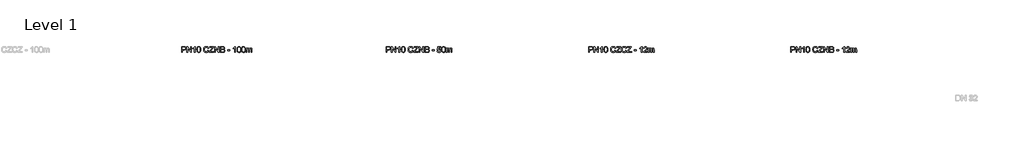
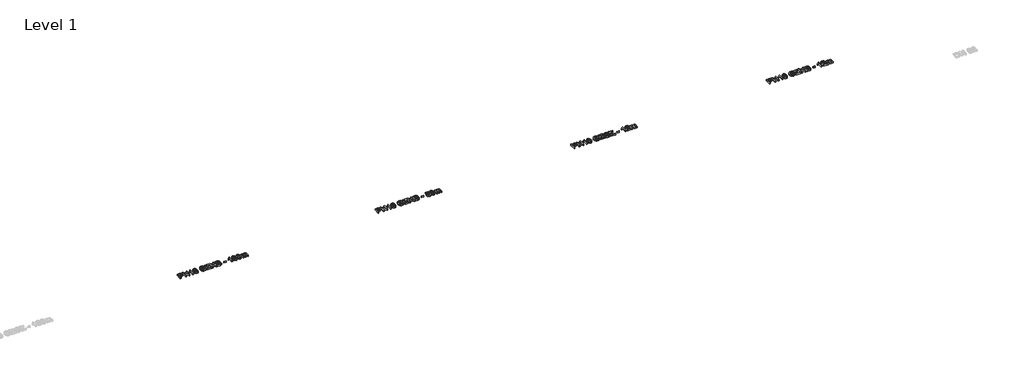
# One storey, part 11 of 17: 4 proxies.
"""IFC4 building model written with IfcOpenShell, lengths in millimetres."""

from ifc_helpers import new_model, si_unit, origin, origin_with_axes, place, context, project, spatial, polyline, outline, extrude, element, save

model = new_model("IFC4")

# Units and contexts
model_context = context("Model", 3, world=origin())
ifc_project = project(units=[si_unit("LENGTHUNIT", "METRE", prefix="MILLI")], contexts=[model_context])

# Site, building, storey
site = spatial("IfcSite", under=ifc_project)
building = spatial("IfcBuilding", under=site)
storey = spatial("IfcBuildingStorey", under=building, Name="Level 1", Elevation=0.0)

# Proxies
placement = place(None, origin())
element("IfcBuildingElementProxy", 1, Name="200mm Arial", ObjectType="200mm Arial", at=placement, inside=storey, context=model_context, shape_type="SweptSolid", body=[
    extrude(outline(polyline([(12829.3512364, -28838.0508707), (12829.3512364, -28637.1382504), (12903.8105522, -28637.1382504), (12933.829723, -28639.0512367), (12958.232562, -28648.4444903), (12967.1046495, -28656.7708862), (12974.0514878, -28667.8686597), (12978.5396481, -28680.9591274), (12980.0357016, -28695.2636056), (12975.995131, -28718.9429434), (12963.8734193, -28738.673681), (12954.1659331, -28746.4421225), (12941.205757, -28751.9910093), (12905.5273348, -28756.4301187), (12854.4653139, -28756.4301187), (12854.4653139, -28838.0508707), (12829.3512364, -28838.0508707)]), holes=[polyline([(12854.4653139, -28731.3160411), (12906.9988628, -28731.3160411), (12929.2679863, -28729.0106473), (12943.9832661, -28722.0944658), (12952.1870346, -28710.9966923), (12954.9216241, -28696.1465224), (12953.3090746, -28684.8648079), (12948.4714264, -28675.3489269), (12941.0095533, -28668.1874908), (12931.5243292, -28663.9691105), (12906.4102516, -28662.2523279), (12854.4653139, -28662.2523279), (12854.4653139, -28731.3160411)])]), origin_with_axes(), (0.0, 0.0, 1.0), 50.0),
    extrude(outline(polyline([(13014.5675582, -28838.0508707), (13014.5675582, -28637.1382504), (13041.4474693, -28637.1382504), (13146.4164653, -28796.3085269), (13146.4164653, -28637.1382504), (13171.5305428, -28637.1382504), (13171.5305428, -28838.0508707), (13144.6506317, -28838.0508707), (13039.6816357, -28678.8315431), (13039.6816357, -28838.0508707), (13014.5675582, -28838.0508707)])), origin_with_axes(), (0.0, 0.0, 1.0), 50.0),
    extrude(outline(polyline([(13300.2401902, -28838.0508707), (13275.1261127, -28838.0508707), (13275.1261127, -28681.4802935), (13251.3364103, -28698.4273908), (13224.8979576, -28711.1070569), (13224.8979576, -28687.3664054), (13261.7106826, -28663.8710087), (13275.181295, -28650.2961631), (13284.0533824, -28637.1382504), (13300.2401902, -28637.1382504), (13300.2401902, -28838.0508707)])), origin_with_axes(), (0.0, 0.0, 1.0), 50.0),
    extrude(outline(polyline([(13359.8861243, -28739.2132413), (13361.7316657, -28707.0542235), (13367.2682897, -28681.4067171), (13376.4408141, -28661.8783145), (13389.1940566, -28648.0766083), (13405.6199877, -28639.8728399), (13425.8105779, -28637.1382504), (13441.2861471, -28638.7569311), (13455.1430356, -28643.6129735), (13466.7313185, -28651.516305), (13475.4010708, -28662.2768534), (13487.1732947, -28692.0017186), (13491.7350314, -28739.2132413), (13489.9078842, -28771.188318), (13484.4264424, -28796.7745108), (13475.3091003, -28816.3213075), (13462.5742519, -28830.178196), (13446.1115327, -28838.4371468), (13425.8105779, -28841.1901304), (13399.7154817, -28836.4076644), (13379.8989049, -28822.0602666), (13371.1433134, -28806.9311195), (13364.8893195, -28788.080233), (13359.8861243, -28739.2132413)]), holes=[polyline([(13385.0002019, -28739.1641904), (13387.9432578, -28778.6685853), (13396.7724257, -28801.5324513), (13409.9180757, -28812.4401524), (13425.8105779, -28816.0760528), (13441.7030801, -28812.4278897), (13454.84873, -28801.4834003), (13463.6778979, -28778.6072716), (13466.6209539, -28739.1641904), (13463.7759998, -28700.5488436), (13455.2411375, -28677.507168), (13442.120013, -28666.0660379), (13425.5162723, -28662.2523279), (13409.7954484, -28665.6123168), (13397.1648332, -28675.6922835), (13388.0413597, -28700.1686989), (13385.0002019, -28739.1641904)])]), origin_with_axes(), (0.0, 0.0, 1.0), 50.0),
    extrude(outline(polyline([(13742.8758068, -28766.6327127), (13767.9898843, -28773.1074358), (13756.4016015, -28802.3724485), (13738.2159682, -28823.7525238), (13714.328164, -28836.8307287), (13685.6333683, -28841.1901304), (13656.5032457, -28837.8914551), (13633.3695996, -28827.9954295), (13615.6376874, -28811.8454099), (13602.7127666, -28789.7847529), (13594.8216978, -28763.8490722), (13592.1913416, -28736.0739816), (13595.1650544, -28706.778312), (13604.0861927, -28681.4802935), (13618.4887729, -28660.983135), (13637.9068108, -28646.0900456), (13660.9362237, -28637.0217544), (13686.1729286, -28633.9989907), (13713.7088959, -28637.9108025), (13736.4746601, -28649.6462382), (13753.7589825, -28668.4817963), (13764.8506246, -28693.6939758), (13739.7365471, -28699.6781895), (13731.0300065, -28681.3637975), (13719.1351554, -28668.8006274), (13703.9048408, -28661.534958), (13685.1919099, -28659.1130682), (13663.6217623, -28661.7986068), (13645.9021129, -28669.8552225), (13632.4560259, -28682.4367867), (13623.7065658, -28698.6971709), (13618.9057058, -28717.0790079), (13617.3054191, -28736.0249307), (13619.2000114, -28759.2260218), (13624.8837882, -28779.2878533), (13634.5713474, -28795.4440043), (13648.4772868, -28806.9280539), (13665.1484726, -28813.7890531), (13683.1317708, -28816.0760528), (13704.0949131, -28812.9613186), (13721.5631765, -28803.6171159), (13734.7517461, -28788.1415466), (13742.8758068, -28766.6327127)])), origin_with_axes(), (0.0, 0.0, 1.0), 50.0),
    extrude(outline(polyline([(13786.8254425, -28838.0508707), (13786.8254425, -28812.0048254), (13889.5871465, -28686.189183), (13909.1094177, -28662.2523279), (13799.3824813, -28662.2523279), (13799.3824813, -28637.1382504), (13940.6491674, -28637.1382504), (13940.6491674, -28662.2523279), (13828.1753787, -28799.938296), (13817.5803773, -28812.9367931), (13943.7884271, -28812.9367931), (13943.7884271, -28838.0508707), (13786.8254425, -28838.0508707)])), origin_with_axes(), (0.0, 0.0, 1.0), 50.0),
    extrude(outline(polyline([(13972.0417643, -28838.0508707), (13972.0417643, -28637.1382504), (13998.9216754, -28637.1382504), (14103.8906714, -28796.3085269), (14103.8906714, -28637.1382504), (14129.0047489, -28637.1382504), (14129.0047489, -28838.0508707), (14102.1248378, -28838.0508707), (13997.1558419, -28678.8315431), (13997.1558419, -28838.0508707), (13972.0417643, -28838.0508707)])), origin_with_axes(), (0.0, 0.0, 1.0), 50.0),
    extrude(outline(polyline([(14172.9543846, -28838.0508707), (14172.9543846, -28637.1382504), (14249.6209924, -28637.1382504), (14270.7067621, -28638.6159097), (14287.1694814, -28643.0488877), (14299.7878338, -28650.5475491), (14309.340503, -28661.2222583), (14315.3553736, -28673.7792971), (14317.3603305, -28686.924947), (14315.6742047, -28699.0221333), (14310.6158272, -28710.3958183), (14302.14841, -28720.3470263), (14290.2351647, -28728.1767814), (14304.4660665, -28735.6079977), (14314.9813602, -28746.9142377), (14321.4744774, -28761.3474747), (14323.6388498, -28778.1596818), (14317.7282125, -28805.1622203), (14303.086509, -28824.3901859), (14281.2343185, -28834.5927799), (14249.0323812, -28838.0508707), (14172.9543846, -28838.0508707)]), holes=[polyline([(14198.0684622, -28812.9367931), (14249.5719415, -28812.9367931), (14268.2112959, -28811.9557745), (14283.9811708, -28806.4865955), (14294.4290194, -28795.3275083), (14298.5247723, -28778.4049365), (14293.7177809, -28758.8826653), (14287.4208674, -28751.8254624), (14278.1441098, -28747.2330688), (14247.1193948, -28743.8730799), (14198.0684622, -28743.8730799), (14198.0684622, -28812.9367931)]), polyline([(14198.0684622, -28718.7590024), (14243.9310842, -28718.7590024), (14270.7128935, -28716.6007613), (14286.8261249, -28707.3056096), (14292.2462529, -28690.9471235), (14287.1940069, -28674.564112), (14272.7239817, -28664.8765528), (14240.448468, -28662.2523279), (14198.0684622, -28662.2523279), (14198.0684622, -28718.7590024)])]), origin_with_axes(), (0.0, 0.0, 1.0), 50.0),
    extrude(outline(polyline([(14420.9559003, -28778.4049365), (14420.9559003, -28753.290859), (14499.4373926, -28753.290859), (14499.4373926, -28778.4049365), (14420.9559003, -28778.4049365)])), origin_with_axes(), (0.0, 0.0, 1.0), 50.0),
    extrude(outline(polyline([(14599.8937028, -28784.6834559), (14625.0077803, -28781.5441962), (14629.618568, -28796.6212266), (14637.6629209, -28807.4185632), (14649.104051, -28813.9116804), (14663.9051699, -28816.0760528), (14681.9068622, -28813.0655518), (14695.3958687, -28804.0340488), (14703.8203664, -28790.0238762), (14706.6285323, -28772.0773662), (14703.998176, -28755.1793199), (14696.1071072, -28742.2543991), (14682.8940122, -28734.0506306), (14664.2975774, -28731.3160411), (14642.2491831, -28735.6815741), (14628.14704, -28747.0123396), (14603.0329624, -28743.8730799), (14625.0077803, -28640.2775101), (14722.3248308, -28640.2775101), (14722.3248308, -28665.3915876), (14645.3148664, -28665.3915876), (14634.5727122, -28720.7210397), (14652.5130908, -28709.8317326), (14671.3118608, -28706.2019636), (14694.7766007, -28710.7023867), (14714.2559523, -28724.2036559), (14727.3709455, -28744.7805221), (14731.7426098, -28770.5077363), (14727.8062725, -28795.6218139), (14715.9972604, -28817.1061224), (14705.5616745, -28827.6428759), (14693.3847805, -28835.1691284), (14679.4665783, -28839.6848799), (14663.8070681, -28841.1901304), (14639.1405803, -28837.321238), (14619.4895504, -28825.7145611), (14606.018938, -28807.7190002), (14599.8937028, -28784.6834559)])), origin_with_axes(), (0.0, 0.0, 1.0), 50.0),
    extrude(outline(polyline([(14753.7174277, -28739.2132413), (14755.562969, -28707.0542235), (14761.099593, -28681.4067171), (14770.2721175, -28661.8783145), (14783.02536, -28648.0766083), (14799.451291, -28639.8728399), (14819.6418812, -28637.1382504), (14835.1174505, -28638.7569311), (14848.974339, -28643.6129735), (14860.5626218, -28651.516305), (14869.2323742, -28662.2768534), (14881.004598, -28692.0017186), (14885.5663347, -28739.2132413), (14883.7391875, -28771.188318), (14878.2577458, -28796.7745108), (14869.1404037, -28816.3213075), (14856.4055553, -28830.178196), (14839.942836, -28838.4371468), (14819.6418812, -28841.1901304), (14793.546785, -28836.4076644), (14773.7302082, -28822.0602666), (14764.9746167, -28806.9311195), (14758.7206228, -28788.080233), (14753.7174277, -28739.2132413)]), holes=[polyline([(14778.8315052, -28739.1641904), (14781.7745612, -28778.6685853), (14790.6037291, -28801.5324513), (14803.749379, -28812.4401524), (14819.6418812, -28816.0760528), (14835.5343834, -28812.4278897), (14848.6800334, -28801.4834003), (14857.5092012, -28778.6072716), (14860.4522572, -28739.1641904), (14857.6073031, -28700.5488436), (14849.0724408, -28677.507168), (14835.9513163, -28666.0660379), (14819.3475756, -28662.2523279), (14803.6267517, -28665.6123168), (14790.9961365, -28675.6922835), (14781.872663, -28700.1686989), (14778.8315052, -28739.1641904)])]), origin_with_axes(), (0.0, 0.0, 1.0), 50.0),
    extrude(outline(polyline([(14913.819672, -28838.0508707), (14913.819672, -28690.5056651), (14938.9337495, -28690.5056651), (14938.9337495, -28714.7858768), (14946.4875931, -28703.632921), (14956.1996778, -28694.8957236), (14967.7389097, -28689.248735), (14980.7741951, -28687.3664054), (14994.7414482, -28689.2855232), (15005.9373236, -28695.0428764), (15014.3005076, -28704.2583204), (15019.7696866, -28716.5517104), (15028.9238169, -28703.7831395), (15039.3655342, -28694.6627317), (15051.0948385, -28689.190487), (15064.1117297, -28687.3664054), (15082.9902075, -28690.4014319), (15096.9513292, -28699.5065113), (15105.578162, -28714.9268982), (15108.4537729, -28736.9078475), (15108.4537729, -28838.0508707), (15083.3396954, -28838.0508707), (15083.3396954, -28747.6990526), (15081.009776, -28726.7297789), (15072.5730156, -28716.4045576), (15058.2256178, -28712.480483), (15044.6201154, -28714.9943433), (15033.5284732, -28722.5359242), (15026.1524392, -28735.6202605), (15023.6937612, -28754.762387), (15023.6937612, -28838.0508707), (14998.5796837, -28838.0508707), (14998.5796837, -28744.9031495), (14997.1265498, -28730.7029045), (14992.7671481, -28720.5738869), (14985.0968085, -28714.5038339), (14973.7108608, -28712.480483), (14955.1205573, -28717.8760856), (14947.7629174, -28724.5224869), (14942.7597223, -28733.6704859), (14938.9337495, -28763.6406058), (14938.9337495, -28838.0508707), (14913.819672, -28838.0508707)])), origin_with_axes(), (0.0, 0.0, 1.0), 50.0),
])
element("IfcBuildingElementProxy", 2, Name="200mm Arial", ObjectType="200mm Arial", at=placement, inside=storey, context=model_context, shape_type="SweptSolid", body=[
    extrude(outline(polyline([(26829.3512364, -28838.0508707), (26829.3512364, -28637.1382504), (26903.8105522, -28637.1382504), (26933.829723, -28639.0512367), (26958.232562, -28648.4444903), (26967.1046495, -28656.7708862), (26974.0514878, -28667.8686597), (26978.5396481, -28680.9591274), (26980.0357016, -28695.2636056), (26975.995131, -28718.9429434), (26963.8734193, -28738.673681), (26954.1659331, -28746.4421225), (26941.205757, -28751.9910093), (26905.5273348, -28756.4301187), (26854.4653139, -28756.4301187), (26854.4653139, -28838.0508707), (26829.3512364, -28838.0508707)]), holes=[polyline([(26854.4653139, -28731.3160411), (26906.9988628, -28731.3160411), (26929.2679863, -28729.0106473), (26943.9832661, -28722.0944658), (26952.1870346, -28710.9966923), (26954.9216241, -28696.1465224), (26953.3090746, -28684.8648079), (26948.4714264, -28675.3489269), (26941.0095533, -28668.1874908), (26931.5243292, -28663.9691105), (26906.4102516, -28662.2523279), (26854.4653139, -28662.2523279), (26854.4653139, -28731.3160411)])]), origin_with_axes(), (0.0, 0.0, 1.0), 50.0),
    extrude(outline(polyline([(27014.5675582, -28838.0508707), (27014.5675582, -28637.1382504), (27041.4474693, -28637.1382504), (27146.4164653, -28796.3085269), (27146.4164653, -28637.1382504), (27171.5305428, -28637.1382504), (27171.5305428, -28838.0508707), (27144.6506317, -28838.0508707), (27039.6816357, -28678.8315431), (27039.6816357, -28838.0508707), (27014.5675582, -28838.0508707)])), origin_with_axes(), (0.0, 0.0, 1.0), 50.0),
    extrude(outline(polyline([(27300.2401902, -28838.0508707), (27275.1261127, -28838.0508707), (27275.1261127, -28681.4802935), (27251.3364103, -28698.4273908), (27224.8979576, -28711.1070569), (27224.8979576, -28687.3664054), (27261.7106826, -28663.8710087), (27275.181295, -28650.2961631), (27284.0533824, -28637.1382504), (27300.2401902, -28637.1382504), (27300.2401902, -28838.0508707)])), origin_with_axes(), (0.0, 0.0, 1.0), 50.0),
    extrude(outline(polyline([(27359.8861243, -28739.2132413), (27361.7316657, -28707.0542235), (27367.2682897, -28681.4067171), (27376.4408141, -28661.8783145), (27389.1940566, -28648.0766083), (27405.6199877, -28639.8728399), (27425.8105779, -28637.1382504), (27441.2861471, -28638.7569311), (27455.1430356, -28643.6129735), (27466.7313185, -28651.516305), (27475.4010708, -28662.2768534), (27487.1732947, -28692.0017186), (27491.7350314, -28739.2132413), (27489.9078842, -28771.188318), (27484.4264424, -28796.7745108), (27475.3091003, -28816.3213075), (27462.5742519, -28830.178196), (27446.1115327, -28838.4371468), (27425.8105779, -28841.1901304), (27399.7154817, -28836.4076644), (27379.8989049, -28822.0602666), (27371.1433134, -28806.9311195), (27364.8893195, -28788.080233), (27359.8861243, -28739.2132413)]), holes=[polyline([(27385.0002019, -28739.1641904), (27387.9432578, -28778.6685853), (27396.7724257, -28801.5324513), (27409.9180757, -28812.4401524), (27425.8105779, -28816.0760528), (27441.7030801, -28812.4278897), (27454.84873, -28801.4834003), (27463.6778979, -28778.6072716), (27466.6209539, -28739.1641904), (27463.7759998, -28700.5488436), (27455.2411375, -28677.507168), (27442.120013, -28666.0660379), (27425.5162723, -28662.2523279), (27409.7954484, -28665.6123168), (27397.1648332, -28675.6922835), (27388.0413597, -28700.1686989), (27385.0002019, -28739.1641904)])]), origin_with_axes(), (0.0, 0.0, 1.0), 50.0),
    extrude(outline(polyline([(27742.8758068, -28766.6327127), (27767.9898843, -28773.1074358), (27756.4016015, -28802.3724485), (27738.2159682, -28823.7525238), (27714.328164, -28836.8307287), (27685.6333683, -28841.1901304), (27656.5032457, -28837.8914551), (27633.3695996, -28827.9954295), (27615.6376874, -28811.8454099), (27602.7127666, -28789.7847529), (27594.8216978, -28763.8490722), (27592.1913416, -28736.0739816), (27595.1650544, -28706.778312), (27604.0861927, -28681.4802935), (27618.4887729, -28660.983135), (27637.9068108, -28646.0900456), (27660.9362237, -28637.0217544), (27686.1729286, -28633.9989907), (27713.7088959, -28637.9108025), (27736.4746601, -28649.6462382), (27753.7589825, -28668.4817963), (27764.8506246, -28693.6939758), (27739.7365471, -28699.6781895), (27731.0300065, -28681.3637975), (27719.1351554, -28668.8006274), (27703.9048408, -28661.534958), (27685.1919099, -28659.1130682), (27663.6217623, -28661.7986068), (27645.9021129, -28669.8552225), (27632.4560259, -28682.4367867), (27623.7065658, -28698.6971709), (27618.9057058, -28717.0790079), (27617.3054191, -28736.0249307), (27619.2000114, -28759.2260218), (27624.8837882, -28779.2878533), (27634.5713474, -28795.4440043), (27648.4772868, -28806.9280539), (27665.1484726, -28813.7890531), (27683.1317708, -28816.0760528), (27704.0949131, -28812.9613186), (27721.5631765, -28803.6171159), (27734.7517461, -28788.1415466), (27742.8758068, -28766.6327127)])), origin_with_axes(), (0.0, 0.0, 1.0), 50.0),
    extrude(outline(polyline([(27786.8254425, -28838.0508707), (27786.8254425, -28812.0048254), (27889.5871465, -28686.189183), (27909.1094177, -28662.2523279), (27799.3824813, -28662.2523279), (27799.3824813, -28637.1382504), (27940.6491674, -28637.1382504), (27940.6491674, -28662.2523279), (27828.1753787, -28799.938296), (27817.5803773, -28812.9367931), (27943.7884271, -28812.9367931), (27943.7884271, -28838.0508707), (27786.8254425, -28838.0508707)])), origin_with_axes(), (0.0, 0.0, 1.0), 50.0),
    extrude(outline(polyline([(27972.0417643, -28838.0508707), (27972.0417643, -28637.1382504), (27998.9216754, -28637.1382504), (28103.8906714, -28796.3085269), (28103.8906714, -28637.1382504), (28129.0047489, -28637.1382504), (28129.0047489, -28838.0508707), (28102.1248378, -28838.0508707), (27997.1558419, -28678.8315431), (27997.1558419, -28838.0508707), (27972.0417643, -28838.0508707)])), origin_with_axes(), (0.0, 0.0, 1.0), 50.0),
    extrude(outline(polyline([(28172.9543846, -28838.0508707), (28172.9543846, -28637.1382504), (28249.6209924, -28637.1382504), (28270.7067621, -28638.6159097), (28287.1694814, -28643.0488877), (28299.7878338, -28650.5475491), (28309.340503, -28661.2222583), (28315.3553736, -28673.7792971), (28317.3603305, -28686.924947), (28315.6742047, -28699.0221333), (28310.6158272, -28710.3958183), (28302.14841, -28720.3470263), (28290.2351647, -28728.1767814), (28304.4660665, -28735.6079977), (28314.9813602, -28746.9142377), (28321.4744774, -28761.3474747), (28323.6388498, -28778.1596818), (28317.7282125, -28805.1622203), (28303.086509, -28824.3901859), (28281.2343185, -28834.5927799), (28249.0323812, -28838.0508707), (28172.9543846, -28838.0508707)]), holes=[polyline([(28198.0684622, -28812.9367931), (28249.5719415, -28812.9367931), (28268.2112959, -28811.9557745), (28283.9811708, -28806.4865955), (28294.4290194, -28795.3275083), (28298.5247723, -28778.4049365), (28293.7177809, -28758.8826653), (28287.4208674, -28751.8254624), (28278.1441098, -28747.2330688), (28247.1193948, -28743.8730799), (28198.0684622, -28743.8730799), (28198.0684622, -28812.9367931)]), polyline([(28198.0684622, -28718.7590024), (28243.9310842, -28718.7590024), (28270.7128935, -28716.6007613), (28286.8261249, -28707.3056096), (28292.2462529, -28690.9471235), (28287.1940069, -28674.564112), (28272.7239817, -28664.8765528), (28240.448468, -28662.2523279), (28198.0684622, -28662.2523279), (28198.0684622, -28718.7590024)])]), origin_with_axes(), (0.0, 0.0, 1.0), 50.0),
    extrude(outline(polyline([(28420.9559003, -28778.4049365), (28420.9559003, -28753.290859), (28499.4373926, -28753.290859), (28499.4373926, -28778.4049365), (28420.9559003, -28778.4049365)])), origin_with_axes(), (0.0, 0.0, 1.0), 50.0),
    extrude(outline(polyline([(28694.0714935, -28838.0508707), (28668.957416, -28838.0508707), (28668.957416, -28681.4802935), (28645.1677136, -28698.4273908), (28618.7292609, -28711.1070569), (28618.7292609, -28687.3664054), (28655.5419859, -28663.8710087), (28669.0125983, -28650.2961631), (28677.8846857, -28637.1382504), (28694.0714935, -28637.1382504), (28694.0714935, -28838.0508707)])), origin_with_axes(), (0.0, 0.0, 1.0), 50.0),
    extrude(outline(polyline([(28882.4270751, -28812.9367931), (28882.4270751, -28838.0508707), (28750.578168, -28838.0508707), (28753.2759693, -28820.7358914), (28768.5308093, -28794.0767095), (28799.9724572, -28764.9649809), (28843.3334817, -28723.1245354), (28851.4636738, -28708.7035612), (28854.1737378, -28694.6749944), (28851.616958, -28682.0995615), (28843.9466184, -28671.6455815), (28832.1560004, -28664.6006413), (28817.2383855, -28662.2523279), (28801.5727439, -28664.545459), (28789.4019812, -28671.4248523), (28781.5477006, -28682.3509476), (28778.8315052, -28696.7841845), (28753.7174277, -28693.6449248), (28759.8058747, -28669.3524504), (28772.9699188, -28651.6082755), (28792.5228468, -28640.7557566), (28817.7779458, -28637.1382504), (28843.2169857, -28641.1604268), (28862.7331256, -28653.2269563), (28875.1491429, -28671.253174), (28879.2878154, -28693.1544155), (28874.8241805, -28716.9686433), (28859.9862733, -28741.5922115), (28824.0074142, -28776.0014408), (28795.1164149, -28800.1590252), (28783.7856494, -28812.9367931), (28882.4270751, -28812.9367931)])), origin_with_axes(), (0.0, 0.0, 1.0), 50.0),
    extrude(outline(polyline([(28913.819672, -28838.0508707), (28913.819672, -28690.5056651), (28938.9337495, -28690.5056651), (28938.9337495, -28714.7858768), (28946.4875931, -28703.632921), (28956.1996778, -28694.8957236), (28967.7389097, -28689.248735), (28980.7741951, -28687.3664054), (28994.7414482, -28689.2855232), (29005.9373236, -28695.0428764), (29014.3005076, -28704.2583204), (29019.7696866, -28716.5517104), (29028.9238169, -28703.7831395), (29039.3655342, -28694.6627317), (29051.0948385, -28689.190487), (29064.1117297, -28687.3664054), (29082.9902075, -28690.4014319), (29096.9513292, -28699.5065113), (29105.578162, -28714.9268982), (29108.4537729, -28736.9078475), (29108.4537729, -28838.0508707), (29083.3396954, -28838.0508707), (29083.3396954, -28747.6990526), (29081.009776, -28726.7297789), (29072.5730156, -28716.4045576), (29058.2256178, -28712.480483), (29044.6201154, -28714.9943433), (29033.5284732, -28722.5359242), (29026.1524392, -28735.6202605), (29023.6937612, -28754.762387), (29023.6937612, -28838.0508707), (28998.5796837, -28838.0508707), (28998.5796837, -28744.9031495), (28997.1265498, -28730.7029045), (28992.7671481, -28720.5738869), (28985.0968085, -28714.5038339), (28973.7108608, -28712.480483), (28955.1205573, -28717.8760856), (28947.7629174, -28724.5224869), (28942.7597223, -28733.6704859), (28938.9337495, -28763.6406058), (28938.9337495, -28838.0508707), (28913.819672, -28838.0508707)])), origin_with_axes(), (0.0, 0.0, 1.0), 50.0),
])
element("IfcBuildingElementProxy", 3, Name="200mm Arial", ObjectType="200mm Arial", at=placement, inside=storey, context=model_context, shape_type="SweptSolid", body=[
    extrude(outline(polyline([(19837.1993856, -28838.0508707), (19837.1993856, -28637.1382504), (19911.6587014, -28637.1382504), (19941.6778722, -28639.0512367), (19966.0807112, -28648.4444903), (19974.9527987, -28656.7708862), (19981.899637, -28667.8686597), (19986.3877974, -28680.9591274), (19987.8838508, -28695.2636056), (19983.8432802, -28718.9429434), (19971.7215685, -28738.673681), (19962.0140824, -28746.4421225), (19949.0539062, -28751.9910093), (19913.3754841, -28756.4301187), (19862.3134631, -28756.4301187), (19862.3134631, -28838.0508707), (19837.1993856, -28838.0508707)]), holes=[polyline([(19862.3134631, -28731.3160411), (19914.847012, -28731.3160411), (19937.1161355, -28729.0106473), (19951.8314153, -28722.0944658), (19960.0351838, -28710.9966923), (19962.7697733, -28696.1465224), (19961.1572239, -28684.8648079), (19956.3195756, -28675.3489269), (19948.8577025, -28668.1874908), (19939.3724784, -28663.9691105), (19914.2584009, -28662.2523279), (19862.3134631, -28662.2523279), (19862.3134631, -28731.3160411)])]), origin_with_axes(), (0.0, 0.0, 1.0), 50.0),
    extrude(outline(polyline([(20022.4157074, -28838.0508707), (20022.4157074, -28637.1382504), (20049.2956186, -28637.1382504), (20154.2646145, -28796.3085269), (20154.2646145, -28637.1382504), (20179.378692, -28637.1382504), (20179.378692, -28838.0508707), (20152.4987809, -28838.0508707), (20047.529785, -28678.8315431), (20047.529785, -28838.0508707), (20022.4157074, -28838.0508707)])), origin_with_axes(), (0.0, 0.0, 1.0), 50.0),
    extrude(outline(polyline([(20308.0883394, -28838.0508707), (20282.9742619, -28838.0508707), (20282.9742619, -28681.4802935), (20259.1845595, -28698.4273908), (20232.7461068, -28711.1070569), (20232.7461068, -28687.3664054), (20269.5588318, -28663.8710087), (20283.0294442, -28650.2961631), (20291.9015316, -28637.1382504), (20308.0883394, -28637.1382504), (20308.0883394, -28838.0508707)])), origin_with_axes(), (0.0, 0.0, 1.0), 50.0),
    extrude(outline(polyline([(20367.7342736, -28739.2132413), (20369.5798149, -28707.0542235), (20375.1164389, -28681.4067171), (20384.2889634, -28661.8783145), (20397.0422059, -28648.0766083), (20413.4681369, -28639.8728399), (20433.6587271, -28637.1382504), (20449.1342964, -28638.7569311), (20462.9911849, -28643.6129735), (20474.5794677, -28651.516305), (20483.2492201, -28662.2768534), (20495.0214439, -28692.0017186), (20499.5831806, -28739.2132413), (20497.7560334, -28771.188318), (20492.2745917, -28796.7745108), (20483.1572496, -28816.3213075), (20470.4224012, -28830.178196), (20453.9596819, -28838.4371468), (20433.6587271, -28841.1901304), (20407.5636309, -28836.4076644), (20387.7470541, -28822.0602666), (20378.9914626, -28806.9311195), (20372.7374687, -28788.080233), (20367.7342736, -28739.2132413)]), holes=[polyline([(20392.8483511, -28739.1641904), (20395.7914071, -28778.6685853), (20404.620575, -28801.5324513), (20417.7662249, -28812.4401524), (20433.6587271, -28816.0760528), (20449.5512293, -28812.4278897), (20462.6968793, -28801.4834003), (20471.5260472, -28778.6072716), (20474.4691031, -28739.1641904), (20471.624149, -28700.5488436), (20463.0892867, -28677.507168), (20449.9681622, -28666.0660379), (20433.3644215, -28662.2523279), (20417.6435976, -28665.6123168), (20405.0129824, -28675.6922835), (20395.8895089, -28700.1686989), (20392.8483511, -28739.1641904)])]), origin_with_axes(), (0.0, 0.0, 1.0), 50.0),
    extrude(outline(polyline([(20750.723956, -28766.6327127), (20775.8380336, -28773.1074358), (20764.2497507, -28802.3724485), (20746.0641174, -28823.7525238), (20722.1763132, -28836.8307287), (20693.4815176, -28841.1901304), (20664.3513949, -28837.8914551), (20641.2177488, -28827.9954295), (20623.4858366, -28811.8454099), (20610.5609159, -28789.7847529), (20602.6698471, -28763.8490722), (20600.0394908, -28736.0739816), (20603.0132036, -28706.778312), (20611.934342, -28681.4802935), (20626.3369221, -28660.983135), (20645.7549601, -28646.0900456), (20668.784373, -28637.0217544), (20694.0210778, -28633.9989907), (20721.5570452, -28637.9108025), (20744.3228093, -28649.6462382), (20761.6071317, -28668.4817963), (20772.6987739, -28693.6939758), (20747.5846963, -28699.6781895), (20738.8781558, -28681.3637975), (20726.9833046, -28668.8006274), (20711.75299, -28661.534958), (20693.0400592, -28659.1130682), (20671.4699115, -28661.7986068), (20653.7502621, -28669.8552225), (20640.3041752, -28682.4367867), (20631.5547151, -28698.6971709), (20626.753855, -28717.0790079), (20625.1535683, -28736.0249307), (20627.0481606, -28759.2260218), (20632.7319374, -28779.2878533), (20642.4194966, -28795.4440043), (20656.3254361, -28806.9280539), (20672.9966218, -28813.7890531), (20690.97992, -28816.0760528), (20711.9430624, -28812.9613186), (20729.4113258, -28803.6171159), (20742.5998953, -28788.1415466), (20750.723956, -28766.6327127)])), origin_with_axes(), (0.0, 0.0, 1.0), 50.0),
    extrude(outline(polyline([(20794.6735917, -28838.0508707), (20794.6735917, -28812.0048254), (20897.4352957, -28686.189183), (20916.9575669, -28662.2523279), (20807.2306305, -28662.2523279), (20807.2306305, -28637.1382504), (20948.4973166, -28637.1382504), (20948.4973166, -28662.2523279), (20836.023528, -28799.938296), (20825.4285265, -28812.9367931), (20951.6365763, -28812.9367931), (20951.6365763, -28838.0508707), (20794.6735917, -28838.0508707)])), origin_with_axes(), (0.0, 0.0, 1.0), 50.0),
    extrude(outline(polyline([(21121.1565997, -28766.6327127), (21146.2706772, -28773.1074358), (21134.6823944, -28802.3724485), (21116.4967611, -28823.7525238), (21092.6089569, -28836.8307287), (21063.9141613, -28841.1901304), (21034.7840386, -28837.8914551), (21011.6503925, -28827.9954295), (20993.9184803, -28811.8454099), (20980.9935595, -28789.7847529), (20973.1024907, -28763.8490722), (20970.4721345, -28736.0739816), (20973.4458473, -28706.778312), (20982.3669857, -28681.4802935), (20996.7695658, -28660.983135), (21016.1876037, -28646.0900456), (21039.2170166, -28637.0217544), (21064.4537215, -28633.9989907), (21091.9896888, -28637.9108025), (21114.755453, -28649.6462382), (21132.0397754, -28668.4817963), (21143.1314175, -28693.6939758), (21118.01734, -28699.6781895), (21109.3107995, -28681.3637975), (21097.4159483, -28668.8006274), (21082.1856337, -28661.534958), (21063.4727029, -28659.1130682), (21041.9025552, -28661.7986068), (21024.1829058, -28669.8552225), (21010.7368188, -28682.4367867), (21001.9873587, -28698.6971709), (20997.1864987, -28717.0790079), (20995.586212, -28736.0249307), (20997.4808043, -28759.2260218), (21003.1645811, -28779.2878533), (21012.8521403, -28795.4440043), (21026.7580797, -28806.9280539), (21043.4292655, -28813.7890531), (21061.4125637, -28816.0760528), (21082.375706, -28812.9613186), (21099.8439694, -28803.6171159), (21113.032539, -28788.1415466), (21121.1565997, -28766.6327127)])), origin_with_axes(), (0.0, 0.0, 1.0), 50.0),
    extrude(outline(polyline([(21165.1062354, -28838.0508707), (21165.1062354, -28812.0048254), (21267.8679394, -28686.189183), (21287.3902106, -28662.2523279), (21177.6632742, -28662.2523279), (21177.6632742, -28637.1382504), (21318.9299603, -28637.1382504), (21318.9299603, -28662.2523279), (21206.4561716, -28799.938296), (21195.8611702, -28812.9367931), (21322.06922, -28812.9367931), (21322.06922, -28838.0508707), (21165.1062354, -28838.0508707)])), origin_with_axes(), (0.0, 0.0, 1.0), 50.0),
    extrude(outline(polyline([(21413.1077511, -28778.4049365), (21413.1077511, -28753.290859), (21491.5892434, -28753.290859), (21491.5892434, -28778.4049365), (21413.1077511, -28778.4049365)])), origin_with_axes(), (0.0, 0.0, 1.0), 50.0),
    extrude(outline(polyline([(21686.2233443, -28838.0508707), (21661.1092668, -28838.0508707), (21661.1092668, -28681.4802935), (21637.3195644, -28698.4273908), (21610.8811117, -28711.1070569), (21610.8811117, -28687.3664054), (21647.6938367, -28663.8710087), (21661.1644491, -28650.2961631), (21670.0365365, -28637.1382504), (21686.2233443, -28637.1382504), (21686.2233443, -28838.0508707)])), origin_with_axes(), (0.0, 0.0, 1.0), 50.0),
    extrude(outline(polyline([(21874.5789258, -28812.9367931), (21874.5789258, -28838.0508707), (21742.7300188, -28838.0508707), (21745.42782, -28820.7358914), (21760.6826601, -28794.0767095), (21792.124308, -28764.9649809), (21835.4853325, -28723.1245354), (21843.6155246, -28708.7035612), (21846.3255886, -28694.6749944), (21843.7688087, -28682.0995615), (21836.0984691, -28671.6455815), (21824.3078512, -28664.6006413), (21809.3902363, -28662.2523279), (21793.7245946, -28664.545459), (21781.553832, -28671.4248523), (21773.6995514, -28682.3509476), (21770.983356, -28696.7841845), (21745.8692784, -28693.6449248), (21751.9577255, -28669.3524504), (21765.1217695, -28651.6082755), (21784.6746976, -28640.7557566), (21809.9297965, -28637.1382504), (21835.3688365, -28641.1604268), (21854.8849763, -28653.2269563), (21867.3009937, -28671.253174), (21871.4396661, -28693.1544155), (21866.9760313, -28716.9686433), (21852.1381241, -28741.5922115), (21816.159265, -28776.0014408), (21787.2682656, -28800.1590252), (21775.9375002, -28812.9367931), (21874.5789258, -28812.9367931)])), origin_with_axes(), (0.0, 0.0, 1.0), 50.0),
    extrude(outline(polyline([(21905.9715227, -28838.0508707), (21905.9715227, -28690.5056651), (21931.0856003, -28690.5056651), (21931.0856003, -28714.7858768), (21938.6394439, -28703.632921), (21948.3515286, -28694.8957236), (21959.8907605, -28689.248735), (21972.9260459, -28687.3664054), (21986.893299, -28689.2855232), (21998.0891743, -28695.0428764), (22006.4523584, -28704.2583204), (22011.9215374, -28716.5517104), (22021.0756677, -28703.7831395), (22031.517385, -28694.6627317), (22043.2466892, -28689.190487), (22056.2635805, -28687.3664054), (22075.1420582, -28690.4014319), (22089.1031799, -28699.5065113), (22097.7300127, -28714.9268982), (22100.6056237, -28736.9078475), (22100.6056237, -28838.0508707), (22075.4915461, -28838.0508707), (22075.4915461, -28747.6990526), (22073.1616268, -28726.7297789), (22064.7248664, -28716.4045576), (22050.3774686, -28712.480483), (22036.7719661, -28714.9943433), (22025.680324, -28722.5359242), (22018.30429, -28735.6202605), (22015.845612, -28754.762387), (22015.845612, -28838.0508707), (21990.7315344, -28838.0508707), (21990.7315344, -28744.9031495), (21989.2784006, -28730.7029045), (21984.9189989, -28720.5738869), (21977.2486593, -28714.5038339), (21965.8627116, -28712.480483), (21947.2724081, -28717.8760856), (21939.9147682, -28724.5224869), (21934.911573, -28733.6704859), (21931.0856003, -28763.6406058), (21931.0856003, -28838.0508707), (21905.9715227, -28838.0508707)])), origin_with_axes(), (0.0, 0.0, 1.0), 50.0),
])
element("IfcBuildingElementProxy", 4, Name="200mm Arial", ObjectType="200mm Arial", at=placement, inside=storey, context=model_context, shape_type="SweptSolid", body=[
    extrude(outline(polyline([(5752.4393739, -28838.0508707), (5752.4393739, -28637.1382504), (5826.8986897, -28637.1382504), (5856.9178605, -28639.0512367), (5881.3206996, -28648.4444903), (5890.192787, -28656.7708862), (5897.1396253, -28667.8686597), (5901.6277857, -28680.9591274), (5903.1238391, -28695.2636056), (5899.0832686, -28718.9429434), (5886.9615568, -28738.673681), (5877.2540707, -28746.4421225), (5864.2938945, -28751.9910093), (5828.6154724, -28756.4301187), (5777.5534514, -28756.4301187), (5777.5534514, -28838.0508707), (5752.4393739, -28838.0508707)]), holes=[polyline([(5777.5534514, -28731.3160411), (5830.0870004, -28731.3160411), (5852.3561238, -28729.0106473), (5867.0714036, -28722.0944658), (5875.2751721, -28710.9966923), (5878.0097616, -28696.1465224), (5876.3972122, -28684.8648079), (5871.559564, -28675.3489269), (5864.0976908, -28668.1874908), (5854.6124667, -28663.9691105), (5829.4983892, -28662.2523279), (5777.5534514, -28662.2523279), (5777.5534514, -28731.3160411)])]), origin_with_axes(), (0.0, 0.0, 1.0), 50.0),
    extrude(outline(polyline([(5937.6556958, -28838.0508707), (5937.6556958, -28637.1382504), (5964.5356069, -28637.1382504), (6069.5046028, -28796.3085269), (6069.5046028, -28637.1382504), (6094.6186804, -28637.1382504), (6094.6186804, -28838.0508707), (6067.7387692, -28838.0508707), (5962.7697733, -28678.8315431), (5962.7697733, -28838.0508707), (5937.6556958, -28838.0508707)])), origin_with_axes(), (0.0, 0.0, 1.0), 50.0),
    extrude(outline(polyline([(6223.3283277, -28838.0508707), (6198.2142502, -28838.0508707), (6198.2142502, -28681.4802935), (6174.4245478, -28698.4273908), (6147.9860951, -28711.1070569), (6147.9860951, -28687.3664054), (6184.7988201, -28663.8710087), (6198.2694325, -28650.2961631), (6207.14152, -28637.1382504), (6223.3283277, -28637.1382504), (6223.3283277, -28838.0508707)])), origin_with_axes(), (0.0, 0.0, 1.0), 50.0),
    extrude(outline(polyline([(6282.9742619, -28739.2132413), (6284.8198032, -28707.0542235), (6290.3564273, -28681.4067171), (6299.5289517, -28661.8783145), (6312.2821942, -28648.0766083), (6328.7081253, -28639.8728399), (6348.8987154, -28637.1382504), (6364.3742847, -28638.7569311), (6378.2311732, -28643.6129735), (6389.819456, -28651.516305), (6398.4892084, -28662.2768534), (6410.2614322, -28692.0017186), (6414.823169, -28739.2132413), (6412.9960217, -28771.188318), (6407.51458, -28796.7745108), (6398.3972379, -28816.3213075), (6385.6623895, -28830.178196), (6369.1996702, -28838.4371468), (6348.8987154, -28841.1901304), (6322.8036192, -28836.4076644), (6302.9870424, -28822.0602666), (6294.2314509, -28806.9311195), (6287.977457, -28788.080233), (6282.9742619, -28739.2132413)]), holes=[polyline([(6308.0883394, -28739.1641904), (6311.0313954, -28778.6685853), (6319.8605633, -28801.5324513), (6333.0062132, -28812.4401524), (6348.8987154, -28816.0760528), (6364.7912176, -28812.4278897), (6377.9368676, -28801.4834003), (6386.7660355, -28778.6072716), (6389.7090914, -28739.1641904), (6386.8641373, -28700.5488436), (6378.329275, -28677.507168), (6365.2081505, -28666.0660379), (6348.6044098, -28662.2523279), (6332.8835859, -28665.6123168), (6320.2529707, -28675.6922835), (6311.1294973, -28700.1686989), (6308.0883394, -28739.1641904)])]), origin_with_axes(), (0.0, 0.0, 1.0), 50.0),
    extrude(outline(polyline([(6665.9639443, -28766.6327127), (6691.0780219, -28773.1074358), (6679.489739, -28802.3724485), (6661.3041057, -28823.7525238), (6637.4163015, -28836.8307287), (6608.7215059, -28841.1901304), (6579.5913832, -28837.8914551), (6556.4577371, -28827.9954295), (6538.7258249, -28811.8454099), (6525.8009042, -28789.7847529), (6517.9098354, -28763.8490722), (6515.2794791, -28736.0739816), (6518.2531919, -28706.778312), (6527.1743303, -28681.4802935), (6541.5769104, -28660.983135), (6560.9949484, -28646.0900456), (6584.0243613, -28637.0217544), (6609.2610661, -28633.9989907), (6636.7970335, -28637.9108025), (6659.5627976, -28649.6462382), (6676.84712, -28668.4817963), (6687.9387622, -28693.6939758), (6662.8246846, -28699.6781895), (6654.1181441, -28681.3637975), (6642.2232929, -28668.8006274), (6626.9929783, -28661.534958), (6608.2800475, -28659.1130682), (6586.7098998, -28661.7986068), (6568.9902504, -28669.8552225), (6555.5441635, -28682.4367867), (6546.7947034, -28698.6971709), (6541.9938433, -28717.0790079), (6540.3935566, -28736.0249307), (6542.2881489, -28759.2260218), (6547.9719257, -28779.2878533), (6557.659485, -28795.4440043), (6571.5654244, -28806.9280539), (6588.2366101, -28813.7890531), (6606.2199083, -28816.0760528), (6627.1830507, -28812.9613186), (6644.6513141, -28803.6171159), (6657.8398836, -28788.1415466), (6665.9639443, -28766.6327127)])), origin_with_axes(), (0.0, 0.0, 1.0), 50.0),
    extrude(outline(polyline([(6709.91358, -28838.0508707), (6709.91358, -28812.0048254), (6812.675284, -28686.189183), (6832.1975552, -28662.2523279), (6722.4706188, -28662.2523279), (6722.4706188, -28637.1382504), (6863.7373049, -28637.1382504), (6863.7373049, -28662.2523279), (6751.2635163, -28799.938296), (6740.6685148, -28812.9367931), (6866.8765646, -28812.9367931), (6866.8765646, -28838.0508707), (6709.91358, -28838.0508707)])), origin_with_axes(), (0.0, 0.0, 1.0), 50.0),
    extrude(outline(polyline([(6895.1299019, -28838.0508707), (6895.1299019, -28637.1382504), (6922.009813, -28637.1382504), (7026.9788089, -28796.3085269), (7026.9788089, -28637.1382504), (7052.0928865, -28637.1382504), (7052.0928865, -28838.0508707), (7025.2129754, -28838.0508707), (6920.2439794, -28678.8315431), (6920.2439794, -28838.0508707), (6895.1299019, -28838.0508707)])), origin_with_axes(), (0.0, 0.0, 1.0), 50.0),
    extrude(outline(polyline([(7096.0425222, -28838.0508707), (7096.0425222, -28637.1382504), (7172.70913, -28637.1382504), (7193.7948996, -28638.6159097), (7210.2576189, -28643.0488877), (7222.8759714, -28650.5475491), (7232.4286405, -28661.2222583), (7238.4435111, -28673.7792971), (7240.448468, -28686.924947), (7238.7623422, -28699.0221333), (7233.7039648, -28710.3958183), (7225.2365475, -28720.3470263), (7213.3233022, -28728.1767814), (7227.5542041, -28735.6079977), (7238.0694978, -28746.9142377), (7244.562615, -28761.3474747), (7246.7269874, -28778.1596818), (7240.81635, -28805.1622203), (7226.1746466, -28824.3901859), (7204.3224561, -28834.5927799), (7172.1205188, -28838.0508707), (7096.0425222, -28838.0508707)]), holes=[polyline([(7121.1565997, -28812.9367931), (7172.660079, -28812.9367931), (7191.2994334, -28811.9557745), (7207.0693083, -28806.4865955), (7217.517157, -28795.3275083), (7221.6129099, -28778.4049365), (7216.8059184, -28758.8826653), (7210.509005, -28751.8254624), (7201.2322473, -28747.2330688), (7170.2075324, -28743.8730799), (7121.1565997, -28743.8730799), (7121.1565997, -28812.9367931)]), polyline([(7121.1565997, -28718.7590024), (7167.0192218, -28718.7590024), (7193.801031, -28716.6007613), (7209.9142624, -28707.3056096), (7215.3343905, -28690.9471235), (7210.2821444, -28674.564112), (7195.8121193, -28664.8765528), (7163.5366055, -28662.2523279), (7121.1565997, -28662.2523279), (7121.1565997, -28718.7590024)])]), origin_with_axes(), (0.0, 0.0, 1.0), 50.0),
    extrude(outline(polyline([(7344.0440378, -28778.4049365), (7344.0440378, -28753.290859), (7422.5255301, -28753.290859), (7422.5255301, -28778.4049365), (7344.0440378, -28778.4049365)])), origin_with_axes(), (0.0, 0.0, 1.0), 50.0),
    extrude(outline(polyline([(7617.1596311, -28838.0508707), (7592.0455535, -28838.0508707), (7592.0455535, -28681.4802935), (7568.2558512, -28698.4273908), (7541.8173985, -28711.1070569), (7541.8173985, -28687.3664054), (7578.6301234, -28663.8710087), (7592.1007358, -28650.2961631), (7600.9728233, -28637.1382504), (7617.1596311, -28637.1382504), (7617.1596311, -28838.0508707)])), origin_with_axes(), (0.0, 0.0, 1.0), 50.0),
    extrude(outline(polyline([(7676.8055652, -28739.2132413), (7678.6511066, -28707.0542235), (7684.1877306, -28681.4067171), (7693.360255, -28661.8783145), (7706.1134975, -28648.0766083), (7722.5394286, -28639.8728399), (7742.7300188, -28637.1382504), (7758.205588, -28638.7569311), (7772.0624765, -28643.6129735), (7783.6507593, -28651.516305), (7792.3205117, -28662.2768534), (7804.0927355, -28692.0017186), (7808.6544723, -28739.2132413), (7806.827325, -28771.188318), (7801.3458833, -28796.7745108), (7792.2285412, -28816.3213075), (7779.4936928, -28830.178196), (7763.0309735, -28838.4371468), (7742.7300188, -28841.1901304), (7716.6349226, -28836.4076644), (7696.8183458, -28822.0602666), (7688.0627543, -28806.9311195), (7681.8087603, -28788.080233), (7676.8055652, -28739.2132413)]), holes=[polyline([(7701.9196428, -28739.1641904), (7704.8626987, -28778.6685853), (7713.6918666, -28801.5324513), (7726.8375166, -28812.4401524), (7742.7300188, -28816.0760528), (7758.6225209, -28812.4278897), (7771.7681709, -28801.4834003), (7780.5973388, -28778.6072716), (7783.5403947, -28739.1641904), (7780.6954407, -28700.5488436), (7772.1605784, -28677.507168), (7759.0394539, -28666.0660379), (7742.4357132, -28662.2523279), (7726.7148892, -28665.6123168), (7714.0842741, -28675.6922835), (7704.9608006, -28700.1686989), (7701.9196428, -28739.1641904)])]), origin_with_axes(), (0.0, 0.0, 1.0), 50.0),
    extrude(outline(polyline([(7830.6292901, -28739.2132413), (7832.4748315, -28707.0542235), (7838.0114555, -28681.4067171), (7847.1839799, -28661.8783145), (7859.9372224, -28648.0766083), (7876.3631535, -28639.8728399), (7896.5537437, -28637.1382504), (7912.0293129, -28638.7569311), (7925.8862014, -28643.6129735), (7937.4744843, -28651.516305), (7946.1442366, -28662.2768534), (7957.9164605, -28692.0017186), (7962.4781972, -28739.2132413), (7960.65105, -28771.188318), (7955.1696082, -28796.7745108), (7946.0522661, -28816.3213075), (7933.3174177, -28830.178196), (7916.8546984, -28838.4371468), (7896.5537437, -28841.1901304), (7870.4586475, -28836.4076644), (7850.6420707, -28822.0602666), (7841.8864792, -28806.9311195), (7835.6324853, -28788.080233), (7830.6292901, -28739.2132413)]), holes=[polyline([(7855.7433677, -28739.1641904), (7858.6864236, -28778.6685853), (7867.5155915, -28801.5324513), (7880.6612415, -28812.4401524), (7896.5537437, -28816.0760528), (7912.4462459, -28812.4278897), (7925.5918958, -28801.4834003), (7934.4210637, -28778.6072716), (7937.3641197, -28739.1641904), (7934.5191656, -28700.5488436), (7925.9843033, -28677.507168), (7912.8631788, -28666.0660379), (7896.2594381, -28662.2523279), (7880.5386141, -28665.6123168), (7867.907999, -28675.6922835), (7858.7845255, -28700.1686989), (7855.7433677, -28739.1641904)])]), origin_with_axes(), (0.0, 0.0, 1.0), 50.0),
    extrude(outline(polyline([(7990.7315344, -28838.0508707), (7990.7315344, -28690.5056651), (8015.845612, -28690.5056651), (8015.845612, -28714.7858768), (8023.3994556, -28703.632921), (8033.1115403, -28694.8957236), (8044.6507722, -28689.248735), (8057.6860576, -28687.3664054), (8071.6533106, -28689.2855232), (8082.849186, -28695.0428764), (8091.21237, -28704.2583204), (8096.681549, -28716.5517104), (8105.8356794, -28703.7831395), (8116.2773967, -28694.6627317), (8128.0067009, -28689.190487), (8141.0235922, -28687.3664054), (8159.9020699, -28690.4014319), (8173.8631916, -28699.5065113), (8182.4900244, -28714.9268982), (8185.3656353, -28736.9078475), (8185.3656353, -28838.0508707), (8160.2515578, -28838.0508707), (8160.2515578, -28747.6990526), (8157.9216385, -28726.7297789), (8149.4848781, -28716.4045576), (8135.1374803, -28712.480483), (8121.5319778, -28714.9943433), (8110.4403357, -28722.5359242), (8103.0643017, -28735.6202605), (8100.6056237, -28754.762387), (8100.6056237, -28838.0508707), (8075.4915461, -28838.0508707), (8075.4915461, -28744.9031495), (8074.0384122, -28730.7029045), (8069.6790106, -28720.5738869), (8062.008671, -28714.5038339), (8050.6227232, -28712.480483), (8032.0324198, -28717.8760856), (8024.6747799, -28724.5224869), (8019.6715847, -28733.6704859), (8015.845612, -28763.6406058), (8015.845612, -28838.0508707), (7990.7315344, -28838.0508707)])), origin_with_axes(), (0.0, 0.0, 1.0), 50.0),
])

save(model, "model.ifc")
